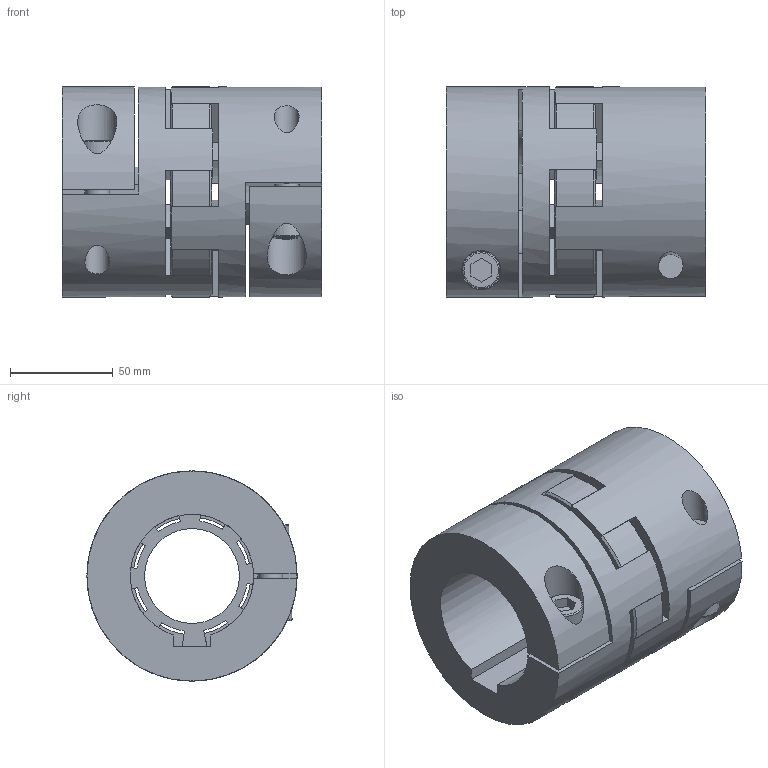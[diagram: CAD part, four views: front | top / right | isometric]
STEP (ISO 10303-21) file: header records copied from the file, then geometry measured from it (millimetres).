
FILE_DESCRIPTION(/* description */ ('STEP AP214'),/* implementation_level */ '2;1');
FILE_NAME(/* name */ 'C:\Diequa Files\DieQua Coupling\EC\STP\EC.450.ABC.#.#.stp',/* time_stamp */ '2018-12-07T10:38:32-06:00',/* author */ ('DiequaCAD'),/* organization */ (''),/* preprocessor_version */ 'ST-DEVELOPER v17.2',/* originating_system */ 'Autodesk Inventor 2019',/* authorisation */ ' ');
FILE_SCHEMA (('AUTOMOTIVE_DESIGN { 1 0 10303 214 3 1 1 }'));
Length unit declared in the file: millimetre
Products named in the file (4): EK2_450_A_60_PFN_60_PFN_5; 2018_11_29__14-48-23-608; 2018_11_29__14-48-23-608_1; 2018_11_29__14-48-23-608_2
Assembly tree (3 placements, depth 2):
  EK2_450_A_60_PFN_60_PFN_5
    2018_11_29__14-48-23-608
    2018_11_29__14-48-23-608_1
    2018_11_29__14-48-23-608_2
Bounding box: 126 x 101.99 x 102 mm (x, y, z)
Volume: 640424.6 mm3; surface area: 127442 mm2
Topology: 3 solids, 3 shells, 155 faces, 435 edges, 292 vertices
Faces by surface type: plane 96, cylinder 41, cone 16, torus 2
Full cylindrical faces by diameter (mm): 12 x4, 12.5 x2, 18 x2, 19 x2, 46 x1, 102 x2
Entity records: 5365 total; most frequent: CARTESIAN_POINT 1041, DIRECTION 911, ORIENTED_EDGE 870, EDGE_CURVE 435, AXIS2_PLACEMENT_3D 322, VERTEX_POINT 292, LINE 267, VECTOR 267
